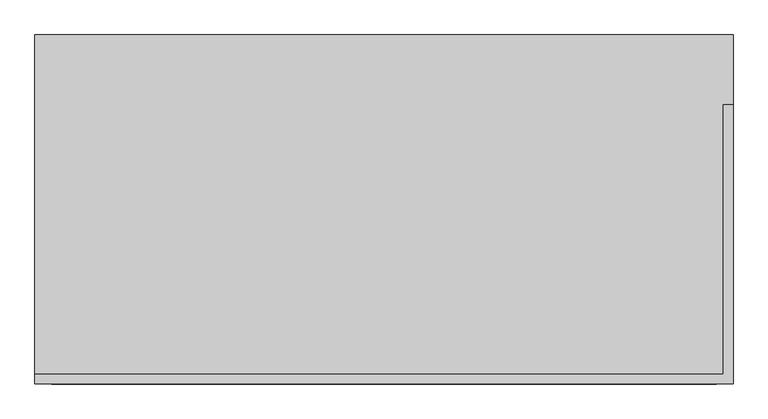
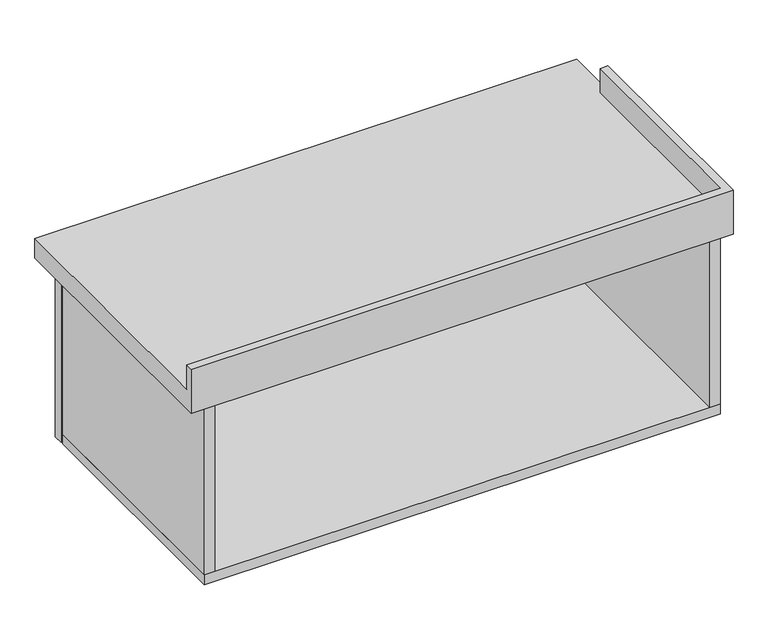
"""IFC4 building model written with IfcOpenShell, lengths in millimetres: furniture geometry, Mueble colgado 1 cajon - lavabo sobreponer : MB1 mueble baño colgado-1 cajon - 90cm 2."""

from ifc_helpers import new_model, si_unit, frame, origin, place, context, project, spatial, polyline, outline, extrude, faceted_brep, source, transform, mapped, element, save


def furniture_5cdeac51(model_context):
    return source(origin(), model_context, "Body", "SolidModel", [
        faceted_brep([(635.0, 90.0, 800.0), (635.0, 90.0, 750.0), (-400.0, 90.0, 750.0), (-400.0, 90.0, 800.0), (-400.0, 75.0, 800.0), (650.0, 75.0, 800.0), (650.0, 495.0, 800.0), (635.0, 495.0, 800.0), (-400.0, 600.0, 750.0), (-400.0, 600.0, 710.0), (-400.0, 75.0, 710.0), (650.0, 75.0, 710.0), (650.0, 495.0, 750.0), (635.0, 495.0, 750.0), (650.0, 600.0, 710.0), (650.0, 600.0, 750.0)], [[[0, 1, 2, 3]], [[0, 3, 4, 5, 6, 7]], [[3, 2, 8, 9, 10, 4]], [[5, 4, 10, 11]], [[7, 6, 12, 13]], [[1, 0, 7, 13]], [[6, 5, 11, 14, 15, 12]], [[15, 8, 2, 1, 13, 12]], [[14, 11, 10, 9]], [[15, 14, 9, 8]]]),
        extrude(outline(polyline([(625.0, 575.0), (625.0, 555.0), (-375.0, 555.0), (-375.0, 575.0), (625.0, 575.0)])), frame((0.0, 0.0, 350.0), z_axis=(0.0, 0.0, 1.0), x_axis=(1.0, 0.0, 0.0)), (0.0, 0.0, 1.0), 350.0),
        extrude(outline(polyline([(625.0, 75.0), (605.0, 75.0), (605.0, 550.0), (625.0, 550.0), (625.0, 75.0)])), frame((0.0, 0.0, 370.0), z_axis=(0.0, 0.0, 1.0), x_axis=(1.0, 0.0, 0.0)), (0.0, 0.0, 1.0), 340.0),
        extrude(outline(polyline([(-355.0, 75.0), (-375.0, 75.0), (-375.0, 550.0), (-355.0, 550.0), (-355.0, 75.0)])), frame((0.0, 0.0, 370.0), z_axis=(0.0, 0.0, 1.0), x_axis=(1.0, 0.0, 0.0)), (0.0, 0.0, 1.0), 340.0),
        extrude(outline(polyline([(625.0, 550.0), (625.0, 75.0), (-375.0, 75.0), (-375.0, 550.0), (625.0, 550.0)])), frame((0.0, 0.0, 350.0), z_axis=(0.0, 0.0, 1.0), x_axis=(1.0, 0.0, 0.0)), (0.0, 0.0, 1.0), 20.0),
    ])


if __name__ == "__main__":
    model = new_model("IFC4")
    model_context = context("Model", 3, world=origin())
    ifc_project = project(units=[si_unit("LENGTHUNIT", "METRE", prefix="MILLI")], contexts=[model_context])
    site = spatial("IfcSite", under=ifc_project)
    building = spatial("IfcBuilding", under=site)
    placement = place(None, origin())
    furniture_shape = furniture_5cdeac51(model_context)
    element("IfcFurniture", 1, ObjectType="Mueble colgado 1 cajon - lavabo sobreponer : MB1 mueble baño colgado-1 cajon - 90cm 2", at=placement, inside=building, context=model_context, shape_type="MappedRepresentation", body=[
        mapped(furniture_shape, transform((0.0, 0.0, 0.0), x_axis=(1.0, 0.0, 0.0), y_axis=(0.0, 1.0, 0.0), z_axis=(0.0, 0.0, 1.0))),
    ])
    save(model, "model.ifc")
